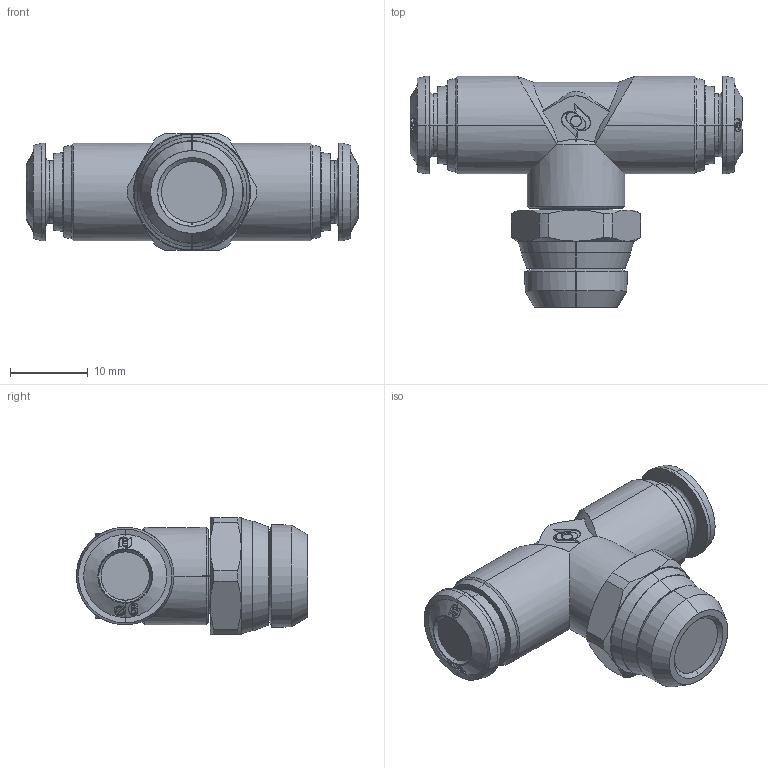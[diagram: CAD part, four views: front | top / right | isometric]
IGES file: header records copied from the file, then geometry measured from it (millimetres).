
Start section: SolidWorks IGES file using analytic representation for surfaces
Global section: file name: K:\Disegni Esecutivi\Serie 50000\ASSIEMI_50000\50211\ASSIEMI_.IGES_50211\5021100005B.IGS; native system: SolidWorks 2009; preprocessor: SolidWorks 2009; author: cad05; date: 090703.154341; units: millimetre
Bounding box: 42.6 x 29.65 x 15 mm (x, y, z)
Surface area: 3239.6 mm2 (no closed solid volume)
Topology: 0 solids, 0 shells, 308 faces, 3808 edges, 3806 vertices
Faces by surface type: bspline 158, revolution 150
